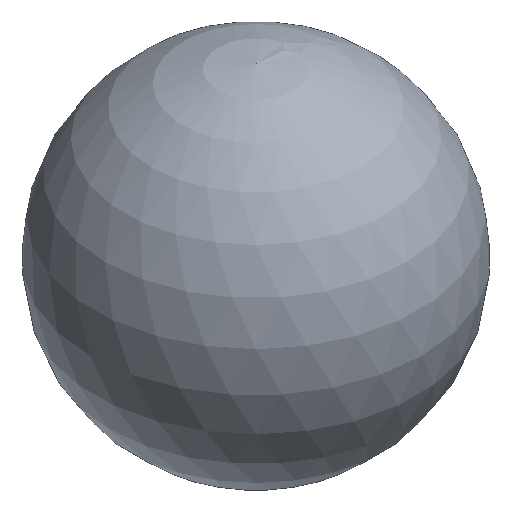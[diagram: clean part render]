
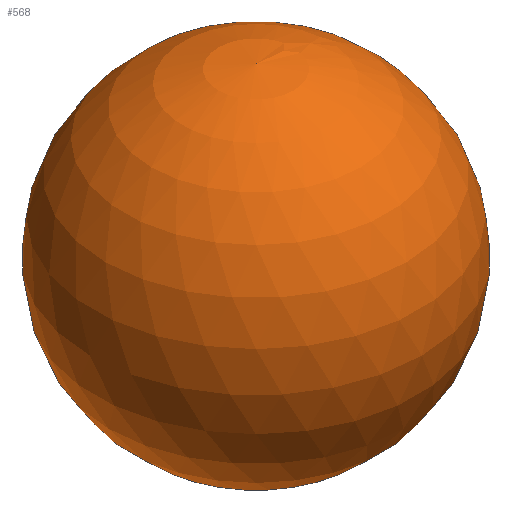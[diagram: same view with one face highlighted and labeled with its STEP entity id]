
A CAD part, isometric view. The second image highlights one B-rep face of the part: STEP entity #568.
In plain terms, the highlighted spherical face has radius 15 mm.
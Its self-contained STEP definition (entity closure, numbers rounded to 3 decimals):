
#411 = CYLINDRICAL_SURFACE('',#412,8.933);
#412 = AXIS2_PLACEMENT_3D('',#413,#414,#415);
#413 = CARTESIAN_POINT('',(0.,0.,1.25));
#414 = DIRECTION('',(-0.,-0.,-1.));
#415 = DIRECTION('',(1.,0.,0.));
#483 = VERTEX_POINT('',#484);
#484 = CARTESIAN_POINT('',(8.933,0.,
    1.217));
#507 = EDGE_CURVE('',#483,#483,#508,.T.);
#508 = SURFACE_CURVE('',#509,(#514,#521),.PCURVE_S1.);
#509 = CIRCLE('',#510,8.933);
#510 = AXIS2_PLACEMENT_3D('',#511,#512,#513);
#511 = CARTESIAN_POINT('',(0.,0.,1.217));
#512 = DIRECTION('',(0.,-0.,-1.));
#513 = DIRECTION('',(0.,1.,-0.));
#514 = PCURVE('',#411,#515);
#515 = DEFINITIONAL_REPRESENTATION('',(#516),#520);
#516 = LINE('',#517,#518);
#517 = CARTESIAN_POINT('',(-7.854,0.033));
#518 = VECTOR('',#519,1.);
#519 = DIRECTION('',(1.,-0.));
#520 = ( GEOMETRIC_REPRESENTATION_CONTEXT(2) 
PARAMETRIC_REPRESENTATION_CONTEXT() REPRESENTATION_CONTEXT('2D SPACE',''
  ) );
#521 = PCURVE('',#522,#527);
#522 = SPHERICAL_SURFACE('',#523,15.);
#523 = AXIS2_PLACEMENT_3D('',#524,#525,#526);
#524 = CARTESIAN_POINT('',(0.,0.,13.266));
#525 = DIRECTION('',(0.,0.,1.));
#526 = DIRECTION('',(1.,0.,-0.));
#527 = DEFINITIONAL_REPRESENTATION('',(#528),#532);
#528 = LINE('',#529,#530);
#529 = CARTESIAN_POINT('',(7.854,-0.933));
#530 = VECTOR('',#531,1.);
#531 = DIRECTION('',(-1.,0.));
#532 = ( GEOMETRIC_REPRESENTATION_CONTEXT(2) 
PARAMETRIC_REPRESENTATION_CONTEXT() REPRESENTATION_CONTEXT('2D SPACE',''
  ) );
#568 = ADVANCED_FACE('',(#569),#522,.T.);
#569 = FACE_BOUND('',#570,.T.);
#570 = EDGE_LOOP('',(#571,#572,#596));
#571 = ORIENTED_EDGE('',*,*,#507,.F.);
#572 = ORIENTED_EDGE('',*,*,#573,.T.);
#573 = EDGE_CURVE('',#483,#574,#576,.T.);
#574 = VERTEX_POINT('',#575);
#575 = CARTESIAN_POINT('',(0.,0.,
    28.266));
#576 = SEAM_CURVE('',#577,(#582,#589),.PCURVE_S1.);
#577 = CIRCLE('',#578,15.);
#578 = AXIS2_PLACEMENT_3D('',#579,#580,#581);
#579 = CARTESIAN_POINT('',(0.,0.,13.266));
#580 = DIRECTION('',(0.,-1.,0.));
#581 = DIRECTION('',(1.,0.,0.));
#582 = PCURVE('',#522,#583);
#583 = DEFINITIONAL_REPRESENTATION('',(#584),#588);
#584 = LINE('',#585,#586);
#585 = CARTESIAN_POINT('',(0.,-6.283));
#586 = VECTOR('',#587,1.);
#587 = DIRECTION('',(0.,1.));
#588 = ( GEOMETRIC_REPRESENTATION_CONTEXT(2) 
PARAMETRIC_REPRESENTATION_CONTEXT() REPRESENTATION_CONTEXT('2D SPACE',''
  ) );
#589 = PCURVE('',#522,#590);
#590 = DEFINITIONAL_REPRESENTATION('',(#591),#595);
#591 = LINE('',#592,#593);
#592 = CARTESIAN_POINT('',(6.283,-6.283));
#593 = VECTOR('',#594,1.);
#594 = DIRECTION('',(0.,1.));
#595 = ( GEOMETRIC_REPRESENTATION_CONTEXT(2) 
PARAMETRIC_REPRESENTATION_CONTEXT() REPRESENTATION_CONTEXT('2D SPACE',''
  ) );
#596 = ORIENTED_EDGE('',*,*,#573,.F.);
